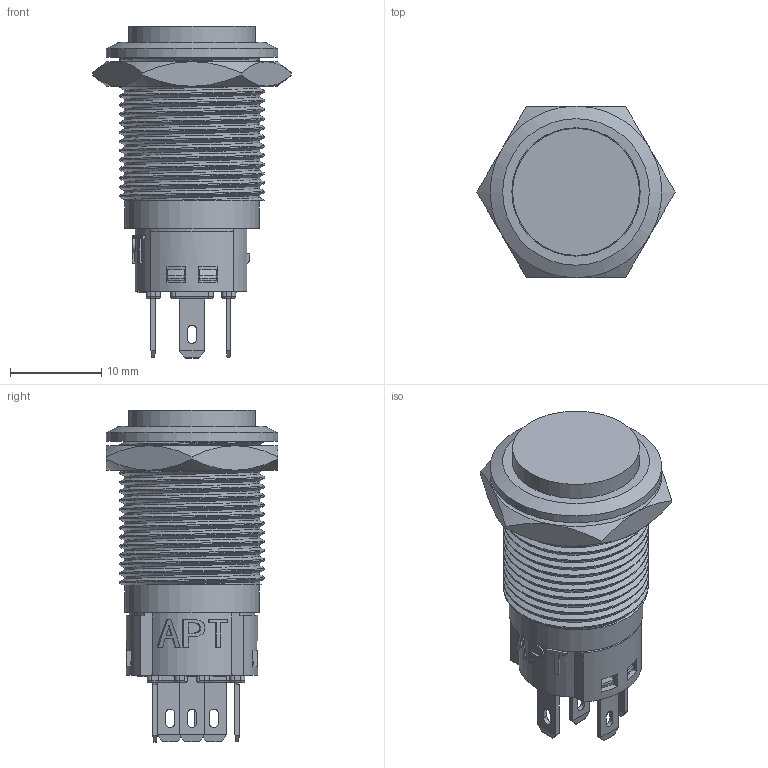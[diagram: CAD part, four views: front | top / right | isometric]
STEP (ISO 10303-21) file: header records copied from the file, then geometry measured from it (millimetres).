
FILE_DESCRIPTION(/* description */ (''),/* implementation_level */ '2;1');
FILE_NAME(/* name */ 'FM16N-SHP-11.prt.stp',/* time_stamp */ '2020-08-03T16:58:32+08:00',/* author */ (''),/* organization */ (''),/* preprocessor_version */ 'ST-DEVELOPER v16.7',/* originating_system */ 'SIEMENS PLM Software NX 12.0',/* authorisation */ '');
FILE_SCHEMA (('AUTOMOTIVE_DESIGN { 1 0 10303 214 3 1 1 1 }'));
Length unit declared in the file: millimetre
Products named in the file (1): Admi2AF0CFF0h9io
Bounding box: 21.71 x 18.8 x 36.35 mm (x, y, z)
Volume: 2307.1 mm3; surface area: 6093.3 mm2
Topology: 4 solids, 4 shells, 880 faces, 2526 edges, 1638 vertices
Faces by surface type: plane 606, cylinder 148, extrusion 43, torus 37, cone 34, bspline 12
Full cylindrical faces by diameter (mm): 1.2 x2, 2 x3, 11 x1, 13.5 x1, 13.9 x2, 14.05 x1, 14.7 x1, 18.8 x1
Entity records: 35748 total; most frequent: CARTESIAN_POINT 8963, ORIENTED_EDGE 5006, DIRECTION 4420, EDGE_CURVE 2503, VECTOR 1844, LINE 1801, VERTEX_POINT 1631, AXIS2_PLACEMENT_3D 1288
